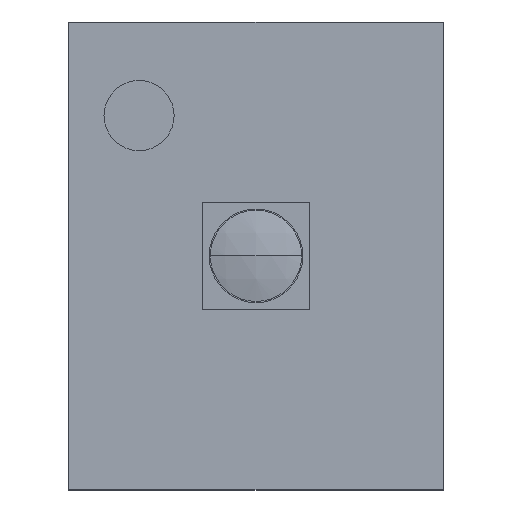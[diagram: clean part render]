
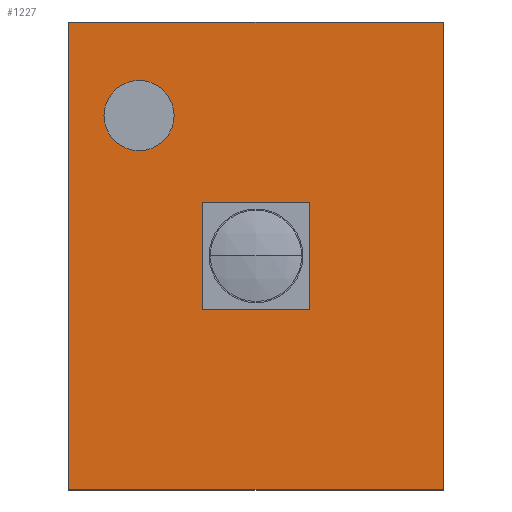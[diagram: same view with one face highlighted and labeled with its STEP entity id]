
A CAD part, top view. The second image highlights one B-rep face of the part: STEP entity #1227.
In plain terms, the highlighted planar face has unit normal (0, 0, 1).
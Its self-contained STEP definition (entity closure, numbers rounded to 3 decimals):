
#71 = PLANE ( 'NONE',  #383 ) ;
#166 = DIRECTION ( 'NONE',  ( -1., 0., 0. ) ) ;
#190 = CARTESIAN_POINT ( 'NONE',  ( -0.8, 1., 0.522 ) ) ;
#201 = CARTESIAN_POINT ( 'NONE',  ( 0., 0., 0.522 ) ) ;
#231 = ORIENTED_EDGE ( 'NONE', *, *, #1370, .T. ) ;
#261 = VERTEX_POINT ( 'NONE', #920 ) ;
#274 = CIRCLE ( 'NONE', #1345, 0.15 ) ;
#293 = CARTESIAN_POINT ( 'NONE',  ( -0.8, -1., 0.522 ) ) ;
#383 = AXIS2_PLACEMENT_3D ( 'NONE', #201, #1455, #1573 ) ;
#412 = CARTESIAN_POINT ( 'NONE',  ( 0.8, 1., 0.522 ) ) ;
#451 = DIRECTION ( 'NONE',  ( 0., 0., 1. ) ) ;
#526 = LINE ( 'NONE', #1307, #1376 ) ;
#545 = CARTESIAN_POINT ( 'NONE',  ( 0.8, -1., 0.522 ) ) ;
#571 = FACE_BOUND ( 'NONE', #1269, .T. ) ;
#616 = AXIS2_PLACEMENT_3D ( 'NONE', #1100, #725, #755 ) ;
#637 = VECTOR ( 'NONE', #166, 1000. ) ;
#642 = EDGE_LOOP ( 'NONE', ( #1597, #231, #1160, #1167 ) ) ;
#678 = VERTEX_POINT ( 'NONE', #190 ) ;
#679 = CARTESIAN_POINT ( 'NONE',  ( -0.8, 1., 0.522 ) ) ;
#689 = VECTOR ( 'NONE', #1174, 1000. ) ;
#690 = DIRECTION ( 'NONE',  ( 1., 0., 0. ) ) ;
#693 = VERTEX_POINT ( 'NONE', #1568 ) ;
#725 = DIRECTION ( 'NONE',  ( 0., 0., 1. ) ) ;
#730 = ORIENTED_EDGE ( 'NONE', *, *, #1186, .F. ) ;
#734 = EDGE_CURVE ( 'NONE', #1363, #693, #1309, .T. ) ;
#740 = CARTESIAN_POINT ( 'NONE',  ( -0.8, 1., 0.522 ) ) ;
#755 = DIRECTION ( 'NONE',  ( 1., 0., 0. ) ) ;
#907 = EDGE_CURVE ( 'NONE', #1450, #261, #1441, .T. ) ;
#920 = CARTESIAN_POINT ( 'NONE',  ( -0.65, 0.6, 0.522 ) ) ;
#921 = VECTOR ( 'NONE', #1611, 1000. ) ;
#960 = ORIENTED_EDGE ( 'NONE', *, *, #907, .F. ) ;
#1004 = LINE ( 'NONE', #679, #637 ) ;
#1027 = EDGE_CURVE ( 'NONE', #678, #1407, #1621, .T. ) ;
#1100 = CARTESIAN_POINT ( 'NONE',  ( -0.5, 0.6, 0.522 ) ) ;
#1160 = ORIENTED_EDGE ( 'NONE', *, *, #1027, .T. ) ;
#1167 = ORIENTED_EDGE ( 'NONE', *, *, #1329, .T. ) ;
#1174 = DIRECTION ( 'NONE',  ( 0., 1., 0. ) ) ;
#1186 = EDGE_CURVE ( 'NONE', #261, #1450, #274, .T. ) ;
#1217 = DIRECTION ( 'NONE',  ( 1., 0., 0. ) ) ;
#1227 = ADVANCED_FACE ( 'NONE', ( #1523, #571 ), #71, .T. ) ;
#1269 = EDGE_LOOP ( 'NONE', ( #960, #730 ) ) ;
#1307 = CARTESIAN_POINT ( 'NONE',  ( -0.8, -1., 0.522 ) ) ;
#1309 = LINE ( 'NONE', #412, #689 ) ;
#1329 = EDGE_CURVE ( 'NONE', #1407, #1363, #526, .T. ) ;
#1334 = CARTESIAN_POINT ( 'NONE',  ( -0.5, 0.6, 0.522 ) ) ;
#1345 = AXIS2_PLACEMENT_3D ( 'NONE', #1334, #451, #1217 ) ;
#1363 = VERTEX_POINT ( 'NONE', #545 ) ;
#1370 = EDGE_CURVE ( 'NONE', #693, #678, #1004, .T. ) ;
#1376 = VECTOR ( 'NONE', #690, 1000. ) ;
#1407 = VERTEX_POINT ( 'NONE', #293 ) ;
#1441 = CIRCLE ( 'NONE', #616, 0.15 ) ;
#1450 = VERTEX_POINT ( 'NONE', #1531 ) ;
#1455 = DIRECTION ( 'NONE',  ( 0., 0., 1. ) ) ;
#1523 = FACE_OUTER_BOUND ( 'NONE', #642, .T. ) ;
#1531 = CARTESIAN_POINT ( 'NONE',  ( -0.35, 0.6, 0.522 ) ) ;
#1568 = CARTESIAN_POINT ( 'NONE',  ( 0.8, 1., 0.522 ) ) ;
#1573 = DIRECTION ( 'NONE',  ( 1., 0., 0. ) ) ;
#1597 = ORIENTED_EDGE ( 'NONE', *, *, #734, .T. ) ;
#1611 = DIRECTION ( 'NONE',  ( 0., -1., 0. ) ) ;
#1621 = LINE ( 'NONE', #740, #921 ) ;
